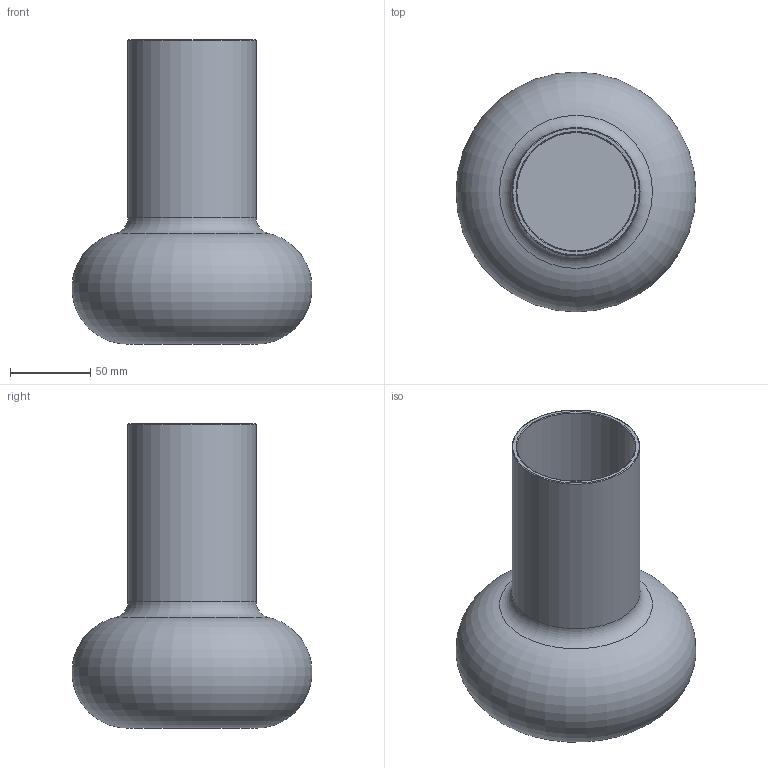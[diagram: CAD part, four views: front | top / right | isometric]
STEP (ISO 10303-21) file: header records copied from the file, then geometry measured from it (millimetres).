
FILE_DESCRIPTION( ( 'Unknown' ), '1' );
FILE_NAME( 'C:/Users/Bariani_F/Desktop/DANESE FRANCESCO/DANESE SPACE 2020/GIULIO IACCHETTI/DECANTER/CALLA.stp', 'Unknown', ( 'Unknown' ), ( 'Unknown' ), 'PSStep 14.0', 'Unknown', ' ' );
FILE_SCHEMA( ( 'AUTOMOTIVE_DESIGN { 1 0 10303 214 1 1 1 1 }' ) );
Length unit declared in the file: millimetre
Products named in the file (1): 1
Bounding box: 149.8 x 149.8 x 190 mm (x, y, z)
Volume: 223348.2 mm3; surface area: 149556.9 mm2
Topology: 1 solids, 1 shells, 11 faces, 21 edges, 13 vertices
Faces by surface type: torus 6, plane 3, cylinder 2
Full cylindrical faces by diameter (mm): 74 x1, 80 x1
Entity records: 318 total; most frequent: DIRECTION 44, CARTESIAN_POINT 32, AXIS2_PLACEMENT_3D 22, EDGE_LOOP 20, ORIENTED_EDGE 20, FACE_OUTER_BOUND 19, STYLED_ITEM 11, PRESENTATION_STYLE_ASSIGNMENT 11
